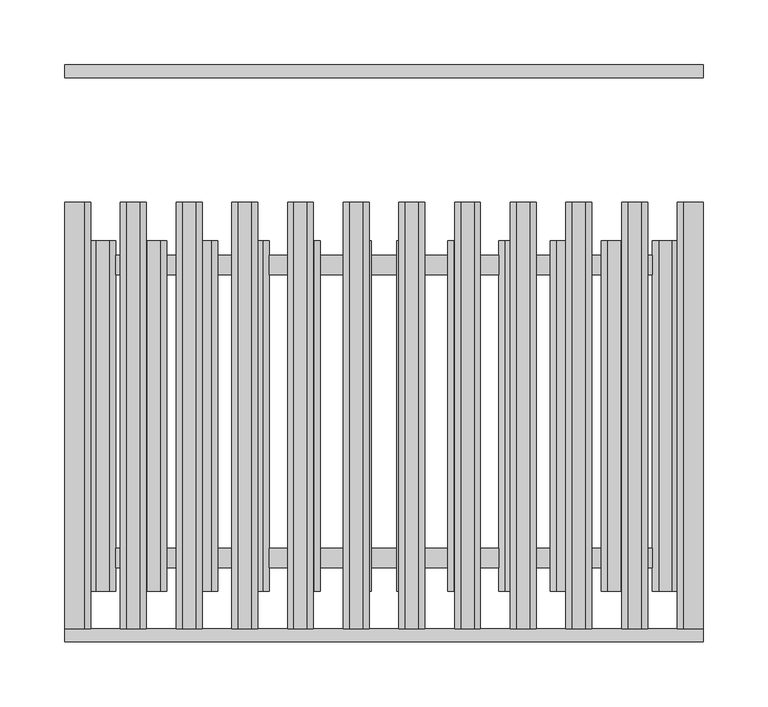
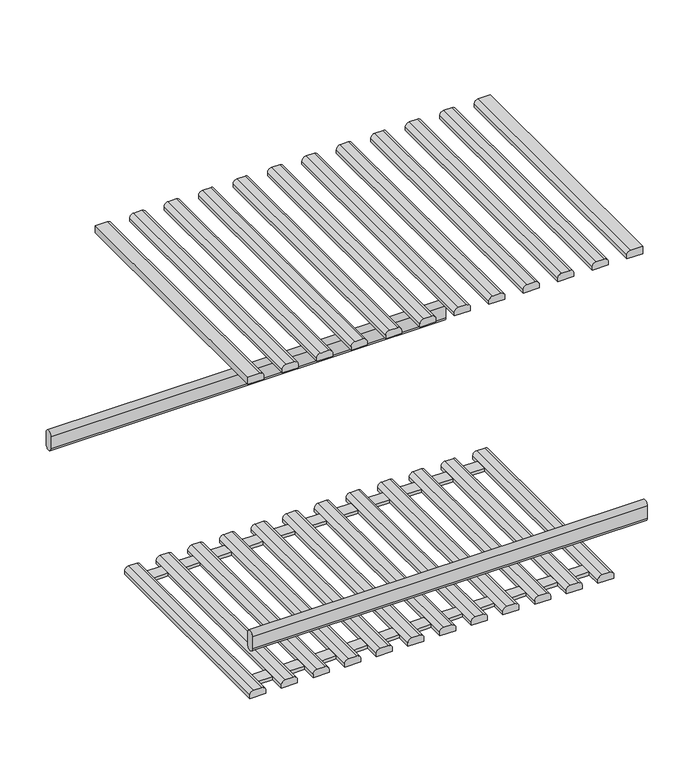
"""IFC4 building model written with IfcOpenShell, lengths in millimetres: proxy geometry, 10028660_ROK_KWT6322UG : 36632200_ROK_10028660_KWT6322UG."""

from ifc_helpers import new_model, si_unit, point, frame, frame_2d, origin, place, context, project, spatial, polyline, circle_curve, trimmed, segment, composite_curve, outline, extrude, source, transform, mapped, element, save
from ifc_brep_helpers import plane_surface, cylinder_surface, advanced_brep


def specialty_equipment_a93c78a1(model_context):
    return source(origin(), model_context, "Body", "SolidModel", [
        advanced_brep(
        [(-212.25, 73.0, 182.4), (-222.25, 73.0, 182.4), (-227.25, 73.0, 177.4), (-227.25, 73.0, 173.0), (-207.25, 73.0, 173.0), (-207.25, 73.0, 177.4), (-54.25, 73.0, 182.4), (-64.25, 73.0, 182.4), (-69.25, 73.0, 177.4), (-69.25, 73.0, 173.0), (-49.25, 73.0, 173.0), (-49.25, 73.0, 177.4), (-93.75, 73.0, 182.4), (-103.75, 73.0, 182.4), (-108.75, 73.0, 177.4), (-108.75, 73.0, 173.0), (-88.75, 73.0, 173.0), (-88.75, 73.0, 177.4), (-133.25, 73.0, 182.4), (-143.25, 73.0, 182.4), (-148.25, 73.0, 177.4), (-148.25, 73.0, 173.0), (-128.25, 73.0, 173.0), (-128.25, 73.0, 177.4), (-172.75, 73.0, 182.4), (-182.75, 73.0, 182.4), (-187.75, 73.0, 177.4), (-187.75, 73.0, 173.0), (-167.75, 73.0, 173.0), (-167.75, 73.0, 177.4), (64.25, 73.0, 182.4), (54.25, 73.0, 182.4), (49.25, 73.0, 177.4), (49.25, 73.0, 173.0), (69.25, 73.0, 173.0), (69.25, 73.0, 177.4), (103.75, 73.0, 182.4), (93.75, 73.0, 182.4), (88.75, 73.0, 177.4), (88.75, 73.0, 173.0), (108.75, 73.0, 173.0), (108.75, 73.0, 177.4), (143.25, 73.0, 182.4), (133.25, 73.0, 182.4), (128.25, 73.0, 177.4), (128.25, 73.0, 173.0), (148.25, 73.0, 173.0), (148.25, 73.0, 177.4), (182.75, 73.0, 182.4), (172.75, 73.0, 182.4), (167.75, 73.0, 177.4), (167.75, 73.0, 173.0), (187.75, 73.0, 173.0), (187.75, 73.0, 177.4), (-14.75, 73.0, 182.4), (-24.75, 73.0, 182.4), (-29.75, 73.0, 177.4), (-29.75, 73.0, 173.0), (-9.75, 73.0, 173.0), (-9.75, 73.0, 177.4), (24.75, 73.0, 182.4), (14.75, 73.0, 182.4), (9.75, 73.0, 177.4), (9.75, 73.0, 173.0), (29.75, 73.0, 173.0), (29.75, 73.0, 177.4), (212.25, 73.0, 182.4), (207.25, 73.0, 177.4), (207.25, 73.0, 173.0), (227.25, 73.0, 173.0), (227.25, 73.0, 177.4), (222.25, 73.0, 182.4), (-212.25, 343.5, 182.4), (-207.25, 343.5, 177.4), (-207.25, 343.5, 173.0), (-227.25, 343.5, 173.0), (-227.25, 343.5, 177.4), (-222.25, 343.5, 182.4), (-54.25, 343.5, 182.4), (-49.25, 343.5, 177.4), (-49.25, 343.5, 173.0), (-69.25, 343.5, 173.0), (-69.25, 343.5, 177.4), (-64.25, 343.5, 182.4), (-93.75, 343.5, 182.4), (-88.75, 343.5, 177.4), (-88.75, 343.5, 173.0), (-108.75, 343.5, 173.0), (-108.75, 343.5, 177.4), (-103.75, 343.5, 182.4), (-133.25, 343.5, 182.4), (-128.25, 343.5, 177.4), (-128.25, 343.5, 173.0), (-148.25, 343.5, 173.0), (-148.25, 343.5, 177.4), (-143.25, 343.5, 182.4), (-172.75, 343.5, 182.4), (-167.75, 343.5, 177.4), (-167.75, 343.5, 173.0), (-187.75, 343.5, 173.0), (-187.75, 343.5, 177.4), (-182.75, 343.5, 182.4), (64.25, 343.5, 182.4), (69.25, 343.5, 177.4), (69.25, 343.5, 173.0), (49.25, 343.5, 173.0), (49.25, 343.5, 177.4), (54.25, 343.5, 182.4), (103.75, 343.5, 182.4), (108.75, 343.5, 177.4), (108.75, 343.5, 173.0), (88.75, 343.5, 173.0), (88.75, 343.5, 177.4), (93.75, 343.5, 182.4), (143.25, 343.5, 182.4), (148.25, 343.5, 177.4), (148.25, 343.5, 173.0), (128.25, 343.5, 173.0), (128.25, 343.5, 177.4), (133.25, 343.5, 182.4), (182.75, 343.5, 182.4), (187.75, 343.5, 177.4), (187.75, 343.5, 173.0), (167.75, 343.5, 173.0), (167.75, 343.5, 177.4), (172.75, 343.5, 182.4), (-14.75, 343.5, 182.4), (-9.75, 343.5, 177.4), (-9.75, 343.5, 173.0), (-29.75, 343.5, 173.0), (-29.75, 343.5, 177.4), (-24.75, 343.5, 182.4), (24.75, 343.5, 182.4), (29.75, 343.5, 177.4), (29.75, 343.5, 173.0), (9.75, 343.5, 173.0), (9.75, 343.5, 177.4), (14.75, 343.5, 182.4), (212.25, 343.5, 182.4), (222.25, 343.5, 182.4), (227.25, 343.5, 177.4), (227.25, 343.5, 173.0), (207.25, 343.5, 173.0), (207.25, 343.5, 177.4), (207.25, 91.3, 173.0), (187.75, 91.3, 173.0), (167.75, 91.3, 173.0), (148.25, 91.3, 173.0), (128.25, 91.3, 173.0), (108.75, 91.3, 173.0), (88.75, 91.3, 173.0), (69.25, 91.3, 173.0), (49.25, 91.3, 173.0), (29.75, 91.3, 173.0), (9.75, 91.3, 173.0), (-9.75, 91.3, 173.0), (-29.75, 91.3, 173.0), (-49.25, 91.3, 173.0), (-69.25, 91.3, 173.0), (-88.75, 91.3, 173.0), (-108.75, 91.3, 173.0), (-128.25, 91.3, 173.0), (-148.25, 91.3, 173.0), (-167.75, 91.3, 173.0), (-187.75, 91.3, 173.0), (-207.25, 91.3, 173.0), (-207.25, 332.3, 173.0), (-187.75, 332.3, 173.0), (-167.75, 332.3, 173.0), (-148.25, 332.3, 173.0), (-128.25, 332.3, 173.0), (-108.75, 332.3, 173.0), (-88.75, 332.3, 173.0), (-69.25, 332.3, 173.0), (-49.25, 332.3, 173.0), (-29.75, 332.3, 173.0), (-9.75, 332.3, 173.0), (9.75, 332.3, 173.0), (29.75, 332.3, 173.0), (49.25, 332.3, 173.0), (69.25, 332.3, 173.0), (88.75, 332.3, 173.0), (108.75, 332.3, 173.0), (128.25, 332.3, 173.0), (148.25, 332.3, 173.0), (167.75, 332.3, 173.0), (187.75, 332.3, 173.0), (207.25, 332.3, 173.0), (-69.25, 317.3, 173.0), (-88.75, 317.3, 173.0), (-88.75, 106.3, 173.0), (-69.25, 106.3, 173.0), (-108.75, 317.3, 173.0), (-128.25, 317.3, 173.0), (-128.25, 106.3, 173.0), (-108.75, 106.3, 173.0), (-148.25, 317.3, 173.0), (-167.75, 317.3, 173.0), (-167.75, 106.3, 173.0), (-148.25, 106.3, 173.0), (167.75, 317.3, 173.0), (148.25, 317.3, 173.0), (148.25, 106.3, 173.0), (167.75, 106.3, 173.0), (9.75, 317.3, 173.0), (-9.75, 317.3, 173.0), (-9.75, 106.3, 173.0), (9.75, 106.3, 173.0), (49.25, 317.3, 173.0), (29.75, 317.3, 173.0), (29.75, 106.3, 173.0), (49.25, 106.3, 173.0), (-207.25, 106.3, 173.0), (-187.75, 106.3, 173.0), (-187.75, 317.3, 173.0), (-207.25, 317.3, 173.0), (69.25, 106.3, 173.0), (88.75, 106.3, 173.0), (88.75, 317.3, 173.0), (69.25, 317.3, 173.0), (108.75, 106.3, 173.0), (128.25, 106.3, 173.0), (128.25, 317.3, 173.0), (108.75, 317.3, 173.0), (-49.25, 106.3, 173.0), (-29.75, 106.3, 173.0), (-29.75, 317.3, 173.0), (-49.25, 317.3, 173.0), (187.75, 106.3, 173.0), (207.25, 106.3, 173.0), (207.25, 317.3, 173.0), (187.75, 317.3, 173.0), (-207.25, 91.3, 177.0), (-207.25, 106.3, 177.0), (-207.25, 317.3, 177.0), (-207.25, 332.3, 177.0), (-69.25, 332.3, 177.0), (-69.25, 317.3, 177.0), (-69.25, 106.3, 177.0), (-69.25, 91.3, 177.0), (-49.25, 91.3, 177.0), (-49.25, 106.3, 177.0), (-49.25, 317.3, 177.0), (-49.25, 332.3, 177.0), (-108.75, 332.3, 177.0), (-108.75, 317.3, 177.0), (-108.75, 106.3, 177.0), (-108.75, 91.3, 177.0), (-88.75, 91.3, 177.0), (-88.75, 106.3, 177.0), (-88.75, 317.3, 177.0), (-88.75, 332.3, 177.0), (-148.25, 332.3, 177.0), (-148.25, 317.3, 177.0), (-148.25, 106.3, 177.0), (-148.25, 91.3, 177.0), (-128.25, 91.3, 177.0), (-128.25, 106.3, 177.0), (-128.25, 317.3, 177.0), (-128.25, 332.3, 177.0), (-187.75, 332.3, 177.0), (-187.75, 317.3, 177.0), (-187.75, 106.3, 177.0), (-187.75, 91.3, 177.0), (-167.75, 91.3, 177.0), (-167.75, 106.3, 177.0), (-167.75, 317.3, 177.0), (-167.75, 332.3, 177.0), (49.25, 332.3, 177.0), (49.25, 317.3, 177.0), (49.25, 106.3, 177.0), (49.25, 91.3, 177.0), (69.25, 91.3, 177.0), (69.25, 106.3, 177.0), (69.25, 317.3, 177.0), (69.25, 332.3, 177.0), (88.75, 332.3, 177.0), (88.75, 317.3, 177.0), (88.75, 106.3, 177.0), (88.75, 91.3, 177.0), (108.75, 91.3, 177.0), (108.75, 106.3, 177.0), (108.75, 317.3, 177.0), (108.75, 332.3, 177.0), (128.25, 332.3, 177.0), (128.25, 317.3, 177.0), (128.25, 106.3, 177.0), (128.25, 91.3, 177.0), (148.25, 91.3, 177.0), (148.25, 106.3, 177.0), (148.25, 317.3, 177.0), (148.25, 332.3, 177.0), (167.75, 332.3, 177.0), (167.75, 317.3, 177.0), (167.75, 106.3, 177.0), (167.75, 91.3, 177.0), (187.75, 91.3, 177.0), (187.75, 106.3, 177.0), (187.75, 317.3, 177.0), (187.75, 332.3, 177.0), (-29.75, 332.3, 177.0), (-29.75, 317.3, 177.0), (-29.75, 106.3, 177.0), (-29.75, 91.3, 177.0), (-9.75, 91.3, 177.0), (-9.75, 106.3, 177.0), (-9.75, 317.3, 177.0), (-9.75, 332.3, 177.0), (9.75, 332.3, 177.0), (9.75, 317.3, 177.0), (9.75, 106.3, 177.0), (9.75, 91.3, 177.0), (29.75, 91.3, 177.0), (29.75, 106.3, 177.0), (29.75, 317.3, 177.0), (29.75, 332.3, 177.0), (207.25, 332.3, 177.0), (207.25, 317.3, 177.0), (207.25, 106.3, 177.0), (207.25, 91.3, 177.0)],
        [
            (0, 1),
            (1, 2, circle_curve(frame((-222.25, 73.0, 177.4), z_axis=(0.0, -1.0, 0.0), x_axis=(1.0, 0.0, 0.0)), 5.0)),
            (2, 3),
            (3, 4),
            (4, 5),
            (5, 0, circle_curve(frame((-212.25, 73.0, 177.4), z_axis=(0.0, -1.0, 0.0), x_axis=(1.0, 0.0, 0.0)), 5.0)),
            (6, 7),
            (7, 8, circle_curve(frame((-64.25, 73.0, 177.4), z_axis=(0.0, -1.0, 0.0), x_axis=(1.0, 0.0, 0.0)), 5.0)),
            (8, 9),
            (9, 10),
            (10, 11),
            (11, 6, circle_curve(frame((-54.25, 73.0, 177.4), z_axis=(0.0, -1.0, 0.0), x_axis=(1.0, 0.0, 0.0)), 5.0)),
            (12, 13),
            (13, 14, circle_curve(frame((-103.75, 73.0, 177.4), z_axis=(0.0, -1.0, 0.0), x_axis=(1.0, 0.0, 0.0)), 5.0)),
            (14, 15),
            (15, 16),
            (16, 17),
            (17, 12, circle_curve(frame((-93.75, 73.0, 177.4), z_axis=(0.0, -1.0, 0.0), x_axis=(1.0, 0.0, 0.0)), 5.0)),
            (18, 19),
            (19, 20, circle_curve(frame((-143.25, 73.0, 177.4), z_axis=(0.0, -1.0, 0.0), x_axis=(1.0, 0.0, 0.0)), 5.0)),
            (20, 21),
            (21, 22),
            (22, 23),
            (23, 18, circle_curve(frame((-133.25, 73.0, 177.4), z_axis=(0.0, -1.0, 0.0), x_axis=(1.0, 0.0, 0.0)), 5.0)),
            (24, 25),
            (25, 26, circle_curve(frame((-182.75, 73.0, 177.4), z_axis=(0.0, -1.0, 0.0), x_axis=(1.0, 0.0, 0.0)), 5.0)),
            (26, 27),
            (27, 28),
            (28, 29),
            (29, 24, circle_curve(frame((-172.75, 73.0, 177.4), z_axis=(0.0, -1.0, 0.0), x_axis=(1.0, 0.0, 0.0)), 5.0)),
            (30, 31),
            (31, 32, circle_curve(frame((54.25, 73.0, 177.4), z_axis=(0.0, -1.0, 0.0), x_axis=(1.0, 0.0, 0.0)), 5.0)),
            (32, 33),
            (33, 34),
            (34, 35),
            (35, 30, circle_curve(frame((64.25, 73.0, 177.4), z_axis=(0.0, -1.0, 0.0), x_axis=(1.0, 0.0, 0.0)), 5.0)),
            (36, 37),
            (37, 38, circle_curve(frame((93.75, 73.0, 177.4), z_axis=(0.0, -1.0, 0.0), x_axis=(1.0, 0.0, 0.0)), 5.0)),
            (38, 39),
            (39, 40),
            (40, 41),
            (41, 36, circle_curve(frame((103.75, 73.0, 177.4), z_axis=(0.0, -1.0, 0.0), x_axis=(1.0, 0.0, 0.0)), 5.0)),
            (42, 43),
            (43, 44, circle_curve(frame((133.25, 73.0, 177.4), z_axis=(0.0, -1.0, 0.0), x_axis=(1.0, 0.0, 0.0)), 5.0)),
            (44, 45),
            (45, 46),
            (46, 47),
            (47, 42, circle_curve(frame((143.25, 73.0, 177.4), z_axis=(0.0, -1.0, 0.0), x_axis=(1.0, 0.0, 0.0)), 5.0)),
            (48, 49),
            (49, 50, circle_curve(frame((172.75, 73.0, 177.4), z_axis=(0.0, -1.0, 0.0), x_axis=(1.0, 0.0, 0.0)), 5.0)),
            (50, 51),
            (51, 52),
            (52, 53),
            (53, 48, circle_curve(frame((182.75, 73.0, 177.4), z_axis=(0.0, -1.0, 0.0), x_axis=(1.0, 0.0, 0.0)), 5.0)),
            (54, 55),
            (55, 56, circle_curve(frame((-24.75, 73.0, 177.4), z_axis=(0.0, -1.0, 0.0), x_axis=(1.0, 0.0, 0.0)), 5.0)),
            (56, 57),
            (57, 58),
            (58, 59),
            (59, 54, circle_curve(frame((-14.75, 73.0, 177.4), z_axis=(0.0, -1.0, 0.0), x_axis=(1.0, 0.0, 0.0)), 5.0)),
            (60, 61),
            (61, 62, circle_curve(frame((14.75, 73.0, 177.4), z_axis=(0.0, -1.0, 0.0), x_axis=(1.0, 0.0, 0.0)), 5.0)),
            (62, 63),
            (63, 64),
            (64, 65),
            (65, 60, circle_curve(frame((24.75, 73.0, 177.4), z_axis=(0.0, -1.0, 0.0), x_axis=(1.0, 0.0, 0.0)), 5.0)),
            (66, 67, circle_curve(frame((212.25, 73.0, 177.4), z_axis=(0.0, -1.0, 0.0), x_axis=(1.0, 0.0, 0.0)), 5.0)),
            (67, 68),
            (68, 69),
            (69, 70),
            (70, 71, circle_curve(frame((222.25, 73.0, 177.4), z_axis=(0.0, -1.0, 0.0), x_axis=(1.0, 0.0, 0.0)), 5.0)),
            (71, 66),
            (72, 73, circle_curve(frame((-212.25, 343.5, 177.4), z_axis=(0.0, 1.0, 0.0), x_axis=(1.0, 0.0, 0.0)), 5.0)),
            (73, 74),
            (74, 75),
            (75, 76),
            (76, 77, circle_curve(frame((-222.25, 343.5, 177.4), z_axis=(0.0, 1.0, 0.0), x_axis=(1.0, 0.0, 0.0)), 5.0)),
            (77, 72),
            (78, 79, circle_curve(frame((-54.25, 343.5, 177.4), z_axis=(0.0, 1.0, 0.0), x_axis=(1.0, 0.0, 0.0)), 5.0)),
            (79, 80),
            (80, 81),
            (81, 82),
            (82, 83, circle_curve(frame((-64.25, 343.5, 177.4), z_axis=(0.0, 1.0, 0.0), x_axis=(1.0, 0.0, 0.0)), 5.0)),
            (83, 78),
            (84, 85, circle_curve(frame((-93.75, 343.5, 177.4), z_axis=(0.0, 1.0, 0.0), x_axis=(1.0, 0.0, 0.0)), 5.0)),
            (85, 86),
            (86, 87),
            (87, 88),
            (88, 89, circle_curve(frame((-103.75, 343.5, 177.4), z_axis=(0.0, 1.0, 0.0), x_axis=(1.0, 0.0, 0.0)), 5.0)),
            (89, 84),
            (90, 91, circle_curve(frame((-133.25, 343.5, 177.4), z_axis=(0.0, 1.0, 0.0), x_axis=(1.0, 0.0, 0.0)), 5.0)),
            (91, 92),
            (92, 93),
            (93, 94),
            (94, 95, circle_curve(frame((-143.25, 343.5, 177.4), z_axis=(0.0, 1.0, 0.0), x_axis=(1.0, 0.0, 0.0)), 5.0)),
            (95, 90),
            (96, 97, circle_curve(frame((-172.75, 343.5, 177.4), z_axis=(0.0, 1.0, 0.0), x_axis=(1.0, 0.0, 0.0)), 5.0)),
            (97, 98),
            (98, 99),
            (99, 100),
            (100, 101, circle_curve(frame((-182.75, 343.5, 177.4), z_axis=(0.0, 1.0, 0.0), x_axis=(1.0, 0.0, 0.0)), 5.0)),
            (101, 96),
            (102, 103, circle_curve(frame((64.25, 343.5, 177.4), z_axis=(0.0, 1.0, 0.0), x_axis=(1.0, 0.0, 0.0)), 5.0)),
            (103, 104),
            (104, 105),
            (105, 106),
            (106, 107, circle_curve(frame((54.25, 343.5, 177.4), z_axis=(0.0, 1.0, 0.0), x_axis=(1.0, 0.0, 0.0)), 5.0)),
            (107, 102),
            (108, 109, circle_curve(frame((103.75, 343.5, 177.4), z_axis=(0.0, 1.0, 0.0), x_axis=(1.0, 0.0, 0.0)), 5.0)),
            (109, 110),
            (110, 111),
            (111, 112),
            (112, 113, circle_curve(frame((93.75, 343.5, 177.4), z_axis=(0.0, 1.0, 0.0), x_axis=(1.0, 0.0, 0.0)), 5.0)),
            (113, 108),
            (114, 115, circle_curve(frame((143.25, 343.5, 177.4), z_axis=(0.0, 1.0, 0.0), x_axis=(1.0, 0.0, 0.0)), 5.0)),
            (115, 116),
            (116, 117),
            (117, 118),
            (118, 119, circle_curve(frame((133.25, 343.5, 177.4), z_axis=(0.0, 1.0, 0.0), x_axis=(1.0, 0.0, 0.0)), 5.0)),
            (119, 114),
            (120, 121, circle_curve(frame((182.75, 343.5, 177.4), z_axis=(0.0, 1.0, 0.0), x_axis=(1.0, 0.0, 0.0)), 5.0)),
            (121, 122),
            (122, 123),
            (123, 124),
            (124, 125, circle_curve(frame((172.75, 343.5, 177.4), z_axis=(0.0, 1.0, 0.0), x_axis=(1.0, 0.0, 0.0)), 5.0)),
            (125, 120),
            (126, 127, circle_curve(frame((-14.75, 343.5, 177.4), z_axis=(0.0, 1.0, 0.0), x_axis=(1.0, 0.0, 0.0)), 5.0)),
            (127, 128),
            (128, 129),
            (129, 130),
            (130, 131, circle_curve(frame((-24.75, 343.5, 177.4), z_axis=(0.0, 1.0, 0.0), x_axis=(1.0, 0.0, 0.0)), 5.0)),
            (131, 126),
            (132, 133, circle_curve(frame((24.75, 343.5, 177.4), z_axis=(0.0, 1.0, 0.0), x_axis=(1.0, 0.0, 0.0)), 5.0)),
            (133, 134),
            (134, 135),
            (135, 136),
            (136, 137, circle_curve(frame((14.75, 343.5, 177.4), z_axis=(0.0, 1.0, 0.0), x_axis=(1.0, 0.0, 0.0)), 5.0)),
            (137, 132),
            (138, 139),
            (139, 140, circle_curve(frame((222.25, 343.5, 177.4), z_axis=(0.0, 1.0, 0.0), x_axis=(1.0, 0.0, 0.0)), 5.0)),
            (140, 141),
            (141, 142),
            (142, 143),
            (143, 138, circle_curve(frame((212.25, 343.5, 177.4), z_axis=(0.0, 1.0, 0.0), x_axis=(1.0, 0.0, 0.0)), 5.0)),
            (0, 72),
            (77, 1),
            (75, 3),
            (2, 76),
            (144, 145),
            (145, 52),
            (51, 146),
            (146, 147),
            (147, 46),
            (45, 148),
            (148, 149),
            (149, 40),
            (39, 150),
            (150, 151),
            (151, 34),
            (33, 152),
            (152, 153),
            (153, 64),
            (63, 154),
            (154, 155),
            (155, 58),
            (57, 156),
            (156, 157),
            (157, 10),
            (9, 158),
            (158, 159),
            (159, 16),
            (15, 160),
            (160, 161),
            (161, 22),
            (21, 162),
            (162, 163),
            (163, 28),
            (27, 164),
            (164, 165),
            (165, 4),
            (74, 166),
            (166, 167),
            (167, 99),
            (98, 168),
            (168, 169),
            (169, 93),
            (92, 170),
            (170, 171),
            (171, 87),
            (86, 172),
            (172, 173),
            (173, 81),
            (80, 174),
            (174, 175),
            (175, 129),
            (128, 176),
            (176, 177),
            (177, 135),
            (134, 178),
            (178, 179),
            (179, 105),
            (104, 180),
            (180, 181),
            (181, 111),
            (110, 182),
            (182, 183),
            (183, 117),
            (116, 184),
            (184, 185),
            (185, 123),
            (122, 186),
            (186, 187),
            (187, 142),
            (141, 69),
            (68, 144),
            (188, 189),
            (189, 190),
            (190, 191),
            (191, 188),
            (192, 193),
            (193, 194),
            (194, 195),
            (195, 192),
            (196, 197),
            (197, 198),
            (198, 199),
            (199, 196),
            (200, 201),
            (201, 202),
            (202, 203),
            (203, 200),
            (204, 205),
            (205, 206),
            (206, 207),
            (207, 204),
            (208, 209),
            (209, 210),
            (210, 211),
            (211, 208),
            (212, 213),
            (213, 214),
            (214, 215),
            (215, 212),
            (216, 217),
            (217, 218),
            (218, 219),
            (219, 216),
            (220, 221),
            (221, 222),
            (222, 223),
            (223, 220),
            (224, 225),
            (225, 226),
            (226, 227),
            (227, 224),
            (228, 229),
            (229, 230),
            (230, 231),
            (231, 228),
            (165, 232),
            (232, 233),
            (233, 212),
            (215, 234),
            (234, 235),
            (235, 166),
            (73, 5),
            (6, 78),
            (83, 7),
            (82, 8),
            (173, 236),
            (236, 237),
            (237, 188),
            (191, 238),
            (238, 239),
            (239, 158),
            (157, 240),
            (240, 241),
            (241, 224),
            (227, 242),
            (242, 243),
            (243, 174),
            (79, 11),
            (12, 84),
            (89, 13),
            (88, 14),
            (171, 244),
            (244, 245),
            (245, 192),
            (195, 246),
            (246, 247),
            (247, 160),
            (159, 248),
            (248, 249),
            (249, 190),
            (189, 250),
            (250, 251),
            (251, 172),
            (85, 17),
            (18, 90),
            (95, 19),
            (94, 20),
            (169, 252),
            (252, 253),
            (253, 196),
            (199, 254),
            (254, 255),
            (255, 162),
            (161, 256),
            (256, 257),
            (257, 194),
            (193, 258),
            (258, 259),
            (259, 170),
            (91, 23),
            (24, 96),
            (101, 25),
            (100, 26),
            (167, 260),
            (260, 261),
            (261, 214),
            (213, 262),
            (262, 263),
            (263, 164),
            (163, 264),
            (264, 265),
            (265, 198),
            (197, 266),
            (266, 267),
            (267, 168),
            (97, 29),
            (30, 102),
            (107, 31),
            (106, 32),
            (179, 268),
            (268, 269),
            (269, 208),
            (211, 270),
            (270, 271),
            (271, 152),
            (151, 272),
            (272, 273),
            (273, 216),
            (219, 274),
            (274, 275),
            (275, 180),
            (103, 35),
            (36, 108),
            (113, 37),
            (112, 38),
            (181, 276),
            (276, 277),
            (277, 218),
            (217, 278),
            (278, 279),
            (279, 150),
            (149, 280),
            (280, 281),
            (281, 220),
            (223, 282),
            (282, 283),
            (283, 182),
            (109, 41),
            (42, 114),
            (119, 43),
            (118, 44),
            (183, 284),
            (284, 285),
            (285, 222),
            (221, 286),
            (286, 287),
            (287, 148),
            (147, 288),
            (288, 289),
            (289, 202),
            (201, 290),
            (290, 291),
            (291, 184),
            (115, 47),
            (48, 120),
            (125, 49),
            (124, 50),
            (185, 292),
            (292, 293),
            (293, 200),
            (203, 294),
            (294, 295),
            (295, 146),
            (145, 296),
            (296, 297),
            (297, 228),
            (231, 298),
            (298, 299),
            (299, 186),
            (121, 53),
            (54, 126),
            (131, 55),
            (130, 56),
            (175, 300),
            (300, 301),
            (301, 226),
            (225, 302),
            (302, 303),
            (303, 156),
            (155, 304),
            (304, 305),
            (305, 206),
            (205, 306),
            (306, 307),
            (307, 176),
            (127, 59),
            (60, 132),
            (137, 61),
            (136, 62),
            (177, 308),
            (308, 309),
            (309, 204),
            (207, 310),
            (310, 311),
            (311, 154),
            (153, 312),
            (312, 313),
            (313, 210),
            (209, 314),
            (314, 315),
            (315, 178),
            (133, 65),
            (66, 138),
            (143, 67),
            (187, 316),
            (316, 317),
            (317, 230),
            (229, 318),
            (318, 319),
            (319, 144),
            (140, 70),
            (71, 139),
            (319, 296),
            (295, 288),
            (287, 280),
            (279, 272),
            (271, 312),
            (311, 304),
            (303, 240),
            (239, 248),
            (247, 256),
            (255, 264),
            (263, 232),
            (249, 238),
            (257, 246),
            (233, 262),
            (265, 254),
            (273, 278),
            (281, 286),
            (289, 294),
            (241, 302),
            (305, 310),
            (313, 270),
            (297, 318),
            (236, 251),
            (250, 237),
            (244, 259),
            (258, 245),
            (260, 235),
            (234, 261),
            (252, 267),
            (266, 253),
            (276, 275),
            (274, 277),
            (284, 283),
            (282, 285),
            (292, 291),
            (290, 293),
            (300, 243),
            (242, 301),
            (308, 307),
            (306, 309),
            (268, 315),
            (314, 269),
            (316, 299),
            (298, 317),
        ],
        [
            plane_surface(frame((-222.25, 73.0, 182.4), z_axis=(0.0, -1.0, 0.0), x_axis=(-1.0, 0.0, 0.0))),
            plane_surface(frame((-222.25, 343.5, 182.4), z_axis=(0.0, 1.0, 0.0), x_axis=(1.0, 0.0, 0.0))),
            plane_surface(frame((-212.25, 73.0, 182.4), z_axis=(0.0, 0.0, 1.0), x_axis=(0.0, 1.0, 0.0))),
            plane_surface(frame((-227.25, 73.0, 177.4), z_axis=(-1.0, 0.0, 0.0), x_axis=(0.0, 1.0, 0.0))),
            plane_surface(frame((-227.25, 73.0, 173.0), z_axis=(0.0, 0.0, -1.0), x_axis=(0.0, 1.0, 0.0))),
            plane_surface(frame((-207.25, 73.0, 173.0), z_axis=(1.0, 0.0, 0.0), x_axis=(0.0, 1.0, 0.0))),
            cylinder_surface(frame((-212.25, 343.5, 177.4), z_axis=(0.0, -1.0, 0.0), x_axis=(1.0, 0.0, 0.0)), 5.0),
            plane_surface(frame((-54.25, 73.0, 182.4), z_axis=(0.0, 0.0, 1.0), x_axis=(0.0, 1.0, 0.0))),
            cylinder_surface(frame((-64.25, 0.0, 177.4), z_axis=(0.0, -1.0, 0.0), x_axis=(1.0, 0.0, 0.0)), 5.0),
            plane_surface(frame((-69.25, 73.0, 177.4), z_axis=(-1.0, 0.0, 0.0), x_axis=(0.0, 1.0, 0.0))),
            plane_surface(frame((-49.25, 73.0, 173.0), z_axis=(1.0, 0.0, 0.0), x_axis=(0.0, 1.0, 0.0))),
            cylinder_surface(frame((-54.25, 0.0, 177.4), z_axis=(0.0, -1.0, 0.0), x_axis=(1.0, 0.0, 0.0)), 5.0),
            plane_surface(frame((-93.75, 73.0, 182.4), z_axis=(0.0, 0.0, 1.0), x_axis=(0.0, 1.0, 0.0))),
            cylinder_surface(frame((-103.75, 0.0, 177.4), z_axis=(0.0, -1.0, 0.0), x_axis=(1.0, 0.0, 0.0)), 5.0),
            plane_surface(frame((-108.75, 73.0, 177.4), z_axis=(-1.0, 0.0, 0.0), x_axis=(0.0, 1.0, 0.0))),
            plane_surface(frame((-88.75, 73.0, 173.0), z_axis=(1.0, 0.0, 0.0), x_axis=(0.0, 1.0, 0.0))),
            cylinder_surface(frame((-93.75, 0.0, 177.4), z_axis=(0.0, -1.0, 0.0), x_axis=(1.0, 0.0, 0.0)), 5.0),
            plane_surface(frame((-133.25, 73.0, 182.4), z_axis=(0.0, 0.0, 1.0), x_axis=(0.0, 1.0, 0.0))),
            cylinder_surface(frame((-143.25, 0.0, 177.4), z_axis=(0.0, -1.0, 0.0), x_axis=(1.0, 0.0, 0.0)), 5.0),
            plane_surface(frame((-148.25, 73.0, 177.4), z_axis=(-1.0, 0.0, 0.0), x_axis=(0.0, 1.0, 0.0))),
            plane_surface(frame((-128.25, 73.0, 173.0), z_axis=(1.0, 0.0, 0.0), x_axis=(0.0, 1.0, 0.0))),
            cylinder_surface(frame((-133.25, 0.0, 177.4), z_axis=(0.0, -1.0, 0.0), x_axis=(1.0, 0.0, 0.0)), 5.0),
            plane_surface(frame((-172.75, 73.0, 182.4), z_axis=(0.0, 0.0, 1.0), x_axis=(0.0, 1.0, 0.0))),
            cylinder_surface(frame((-182.75, 0.0, 177.4), z_axis=(0.0, -1.0, 0.0), x_axis=(1.0, 0.0, 0.0)), 5.0),
            plane_surface(frame((-187.75, 73.0, 177.4), z_axis=(-1.0, 0.0, 0.0), x_axis=(0.0, 1.0, 0.0))),
            plane_surface(frame((-167.75, 73.0, 173.0), z_axis=(1.0, 0.0, 0.0), x_axis=(0.0, 1.0, 0.0))),
            cylinder_surface(frame((-172.75, 0.0, 177.4), z_axis=(0.0, -1.0, 0.0), x_axis=(1.0, 0.0, 0.0)), 5.0),
            plane_surface(frame((64.25, 73.0, 182.4), z_axis=(0.0, 0.0, 1.0), x_axis=(0.0, 1.0, 0.0))),
            cylinder_surface(frame((54.25, 0.0, 177.4), z_axis=(0.0, -1.0, 0.0), x_axis=(1.0, 0.0, 0.0)), 5.0),
            plane_surface(frame((49.25, 73.0, 177.4), z_axis=(-1.0, 0.0, 0.0), x_axis=(0.0, 1.0, 0.0))),
            plane_surface(frame((69.25, 73.0, 173.0), z_axis=(1.0, 0.0, 0.0), x_axis=(0.0, 1.0, 0.0))),
            cylinder_surface(frame((64.25, 0.0, 177.4), z_axis=(0.0, -1.0, 0.0), x_axis=(1.0, 0.0, 0.0)), 5.0),
            plane_surface(frame((103.75, 73.0, 182.4), z_axis=(0.0, 0.0, 1.0), x_axis=(0.0, 1.0, 0.0))),
            cylinder_surface(frame((93.75, 0.0, 177.4), z_axis=(0.0, -1.0, 0.0), x_axis=(1.0, 0.0, 0.0)), 5.0),
            plane_surface(frame((88.75, 73.0, 177.4), z_axis=(-1.0, 0.0, 0.0), x_axis=(0.0, 1.0, 0.0))),
            plane_surface(frame((108.75, 73.0, 173.0), z_axis=(1.0, 0.0, 0.0), x_axis=(0.0, 1.0, 0.0))),
            cylinder_surface(frame((103.75, 0.0, 177.4), z_axis=(0.0, -1.0, 0.0), x_axis=(1.0, 0.0, 0.0)), 5.0),
            plane_surface(frame((143.25, 73.0, 182.4), z_axis=(0.0, 0.0, 1.0), x_axis=(0.0, 1.0, 0.0))),
            cylinder_surface(frame((133.25, 0.0, 177.4), z_axis=(0.0, -1.0, 0.0), x_axis=(1.0, 0.0, 0.0)), 5.0),
            plane_surface(frame((128.25, 73.0, 177.4), z_axis=(-1.0, 0.0, 0.0), x_axis=(0.0, 1.0, 0.0))),
            plane_surface(frame((148.25, 73.0, 173.0), z_axis=(1.0, 0.0, 0.0), x_axis=(0.0, 1.0, 0.0))),
            cylinder_surface(frame((143.25, 0.0, 177.4), z_axis=(0.0, -1.0, 0.0), x_axis=(1.0, 0.0, 0.0)), 5.0),
            plane_surface(frame((182.75, 73.0, 182.4), z_axis=(0.0, 0.0, 1.0), x_axis=(0.0, 1.0, 0.0))),
            cylinder_surface(frame((172.75, 0.0, 177.4), z_axis=(0.0, -1.0, 0.0), x_axis=(1.0, 0.0, 0.0)), 5.0),
            plane_surface(frame((167.75, 73.0, 177.4), z_axis=(-1.0, 0.0, 0.0), x_axis=(0.0, 1.0, 0.0))),
            plane_surface(frame((187.75, 73.0, 173.0), z_axis=(1.0, 0.0, 0.0), x_axis=(0.0, 1.0, 0.0))),
            cylinder_surface(frame((182.75, 0.0, 177.4), z_axis=(0.0, -1.0, 0.0), x_axis=(1.0, 0.0, 0.0)), 5.0),
            plane_surface(frame((-14.75, 73.0, 182.4), z_axis=(0.0, 0.0, 1.0), x_axis=(0.0, 1.0, 0.0))),
            cylinder_surface(frame((-24.75, 0.0, 177.4), z_axis=(0.0, -1.0, 0.0), x_axis=(1.0, 0.0, 0.0)), 5.0),
            plane_surface(frame((-29.75, 73.0, 177.4), z_axis=(-1.0, 0.0, 0.0), x_axis=(0.0, 1.0, 0.0))),
            plane_surface(frame((-9.75, 73.0, 173.0), z_axis=(1.0, 0.0, 0.0), x_axis=(0.0, 1.0, 0.0))),
            cylinder_surface(frame((-14.75, 0.0, 177.4), z_axis=(0.0, -1.0, 0.0), x_axis=(1.0, 0.0, 0.0)), 5.0),
            plane_surface(frame((24.75, 73.0, 182.4), z_axis=(0.0, 0.0, 1.0), x_axis=(0.0, 1.0, 0.0))),
            cylinder_surface(frame((14.75, 0.0, 177.4), z_axis=(0.0, -1.0, 0.0), x_axis=(1.0, 0.0, 0.0)), 5.0),
            plane_surface(frame((9.75, 73.0, 177.4), z_axis=(-1.0, 0.0, 0.0), x_axis=(0.0, 1.0, 0.0))),
            plane_surface(frame((29.75, 73.0, 173.0), z_axis=(1.0, 0.0, 0.0), x_axis=(0.0, 1.0, 0.0))),
            cylinder_surface(frame((24.75, 0.0, 177.4), z_axis=(0.0, -1.0, 0.0), x_axis=(1.0, 0.0, 0.0)), 5.0),
            cylinder_surface(frame((212.25, 0.0, 177.4), z_axis=(0.0, -1.0, 0.0), x_axis=(1.0, 0.0, 0.0)), 5.0),
            plane_surface(frame((207.25, 73.0, 177.4), z_axis=(-1.0, 0.0, 0.0), x_axis=(0.0, 1.0, 0.0))),
            plane_surface(frame((227.25, 73.0, 173.0), z_axis=(1.0, 0.0, 1.0228787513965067e-12), x_axis=(0.0, 1.0, 0.0))),
            plane_surface(frame((222.25, 73.0, 182.4), z_axis=(0.0, 0.0, 1.0), x_axis=(0.0, 1.0, 0.0))),
            cylinder_surface(frame((-222.25, 343.5, 177.4), z_axis=(0.0, -1.0, 0.0), x_axis=(1.0, 0.0, 0.0)), 5.0),
            cylinder_surface(frame((222.25, 0.0, 177.4), z_axis=(0.0, -1.0, 0.0), x_axis=(1.0, 0.0, 0.0)), 5.0),
            plane_surface(frame((227.25, 91.3, 177.0), z_axis=(0.0, -1.0, 0.0), x_axis=(-1.0, 0.0, 0.0))),
            plane_surface(frame((227.25, 106.3, 173.0), z_axis=(0.0, 1.0, 0.0), x_axis=(-1.0, 0.0, 0.0))),
            plane_surface(frame((227.25, 106.3, 177.0), z_axis=(0.0, 0.0, 1.0), x_axis=(-1.0, 0.0, 0.0))),
            plane_surface(frame((227.25, 332.3, 177.0), z_axis=(0.0, 0.0, 1.0), x_axis=(-1.0, 0.0, 0.0))),
            plane_surface(frame((227.25, 317.3, 177.0), z_axis=(0.0, -1.0, 0.0), x_axis=(-1.0, 0.0, 0.0))),
            plane_surface(frame((227.25, 332.3, 173.0), z_axis=(0.0, 1.0, 0.0), x_axis=(-1.0, 0.0, 0.0))),
        ],
        [
            (0, [[1, 2, 3, 4, 5, 6]]),
            (0, [[7, 8, 9, 10, 11, 12]]),
            (0, [[13, 14, 15, 16, 17, 18]]),
            (0, [[19, 20, 21, 22, 23, 24]]),
            (0, [[25, 26, 27, 28, 29, 30]]),
            (0, [[31, 32, 33, 34, 35, 36]]),
            (0, [[37, 38, 39, 40, 41, 42]]),
            (0, [[43, 44, 45, 46, 47, 48]]),
            (0, [[49, 50, 51, 52, 53, 54]]),
            (0, [[55, 56, 57, 58, 59, 60]]),
            (0, [[61, 62, 63, 64, 65, 66]]),
            (0, [[67, 68, 69, 70, 71, 72]]),
            (1, [[73, 74, 75, 76, 77, 78]]),
            (1, [[79, 80, 81, 82, 83, 84]]),
            (1, [[85, 86, 87, 88, 89, 90]]),
            (1, [[91, 92, 93, 94, 95, 96]]),
            (1, [[97, 98, 99, 100, 101, 102]]),
            (1, [[103, 104, 105, 106, 107, 108]]),
            (1, [[109, 110, 111, 112, 113, 114]]),
            (1, [[115, 116, 117, 118, 119, 120]]),
            (1, [[121, 122, 123, 124, 125, 126]]),
            (1, [[127, 128, 129, 130, 131, 132]]),
            (1, [[133, 134, 135, 136, 137, 138]]),
            (1, [[139, 140, 141, 142, 143, 144]]),
            (2, [[-1, 145, -78, 146]]),
            (3, [[147, -3, 148, -76]]),
            (4, [[149, 150, -52, 151, 152, 153, -46, 154, 155, 156, -40, 157, 158, 159, -34, 160, 161, 162, -64, 163, 164, 165, -58, 166, 167, 168, -10, 169, 170, 171, -16, 172, 173, 174, -22, 175, 176, 177, -28, 178, 179, 180, -4, -147, -75, 181, 182, 183, -99, 184, 185, 186, -93, 187, 188, 189, -87, 190, 191, 192, -81, 193, 194, 195, -129, 196, 197, 198, -135, 199, 200, 201, -105, 202, 203, 204, -111, 205, 206, 207, -117, 208, 209, 210, -123, 211, 212, 213, -142, 214, -69, 215], [216, 217, 218, 219], [220, 221, 222, 223], [224, 225, 226, 227], [228, 229, 230, 231], [232, 233, 234, 235], [236, 237, 238, 239], [240, 241, 242, 243], [244, 245, 246, 247], [248, 249, 250, 251], [252, 253, 254, 255], [256, 257, 258, 259]]),
            (5, [[-5, -180, 260, 261, 262, -243, 263, 264, 265, -181, -74, 266]]),
            (6, [[-6, -266, -73, -145]]),
            (7, [[-7, 267, -84, 268]]),
            (8, [[-8, -268, -83, 269]]),
            (9, [[-9, -269, -82, -192, 270, 271, 272, -219, 273, 274, 275, -169]]),
            (10, [[-11, -168, 276, 277, 278, -255, 279, 280, 281, -193, -80, 282]]),
            (11, [[-12, -282, -79, -267]]),
            (12, [[-13, 283, -90, 284]]),
            (13, [[-14, -284, -89, 285]]),
            (14, [[-15, -285, -88, -189, 286, 287, 288, -223, 289, 290, 291, -172]]),
            (15, [[-17, -171, 292, 293, 294, -217, 295, 296, 297, -190, -86, 298]]),
            (16, [[-18, -298, -85, -283]]),
            (17, [[-19, 299, -96, 300]]),
            (18, [[-20, -300, -95, 301]]),
            (19, [[-21, -301, -94, -186, 302, 303, 304, -227, 305, 306, 307, -175]]),
            (20, [[-23, -174, 308, 309, 310, -221, 311, 312, 313, -187, -92, 314]]),
            (21, [[-24, -314, -91, -299]]),
            (22, [[-25, 315, -102, 316]]),
            (23, [[-26, -316, -101, 317]]),
            (24, [[-27, -317, -100, -183, 318, 319, 320, -241, 321, 322, 323, -178]]),
            (25, [[-29, -177, 324, 325, 326, -225, 327, 328, 329, -184, -98, 330]]),
            (26, [[-30, -330, -97, -315]]),
            (27, [[-31, 331, -108, 332]]),
            (28, [[-32, -332, -107, 333]]),
            (29, [[-33, -333, -106, -201, 334, 335, 336, -239, 337, 338, 339, -160]]),
            (30, [[-35, -159, 340, 341, 342, -247, 343, 344, 345, -202, -104, 346]]),
            (31, [[-36, -346, -103, -331]]),
            (32, [[-37, 347, -114, 348]]),
            (33, [[-38, -348, -113, 349]]),
            (34, [[-39, -349, -112, -204, 350, 351, 352, -245, 353, 354, 355, -157]]),
            (35, [[-41, -156, 356, 357, 358, -251, 359, 360, 361, -205, -110, 362]]),
            (36, [[-42, -362, -109, -347]]),
            (37, [[-43, 363, -120, 364]]),
            (38, [[-44, -364, -119, 365]]),
            (39, [[-45, -365, -118, -207, 366, 367, 368, -249, 369, 370, 371, -154]]),
            (40, [[-47, -153, 372, 373, 374, -229, 375, 376, 377, -208, -116, 378]]),
            (41, [[-48, -378, -115, -363]]),
            (42, [[-49, 379, -126, 380]]),
            (43, [[-50, -380, -125, 381]]),
            (44, [[-51, -381, -124, -210, 382, 383, 384, -231, 385, 386, 387, -151]]),
            (45, [[-53, -150, 388, 389, 390, -259, 391, 392, 393, -211, -122, 394]]),
            (46, [[-54, -394, -121, -379]]),
            (47, [[-55, 395, -132, 396]]),
            (48, [[-56, -396, -131, 397]]),
            (49, [[-57, -397, -130, -195, 398, 399, 400, -253, 401, 402, 403, -166]]),
            (50, [[-59, -165, 404, 405, 406, -233, 407, 408, 409, -196, -128, 410]]),
            (51, [[-60, -410, -127, -395]]),
            (52, [[-61, 411, -138, 412]]),
            (53, [[-62, -412, -137, 413]]),
            (54, [[-63, -413, -136, -198, 414, 415, 416, -235, 417, 418, 419, -163]]),
            (55, [[-65, -162, 420, 421, 422, -237, 423, 424, 425, -199, -134, 426]]),
            (56, [[-66, -426, -133, -411]]),
            (57, [[-67, 427, -144, 428]]),
            (58, [[-68, -428, -143, -213, 429, 430, 431, -257, 432, 433, 434, -215]]),
            (59, [[-70, -214, -141, 435]]),
            (60, [[-72, 436, -139, -427]]),
            (61, [[-2, -146, -77, -148]]),
            (62, [[-71, -435, -140, -436]]),
            (63, [[-149, -434, 437, -388]]),
            (63, [[-152, -387, 438, -372]]),
            (63, [[-155, -371, 439, -356]]),
            (63, [[-158, -355, 440, -340]]),
            (63, [[-161, -339, 441, -420]]),
            (63, [[-164, -419, 442, -404]]),
            (63, [[-167, -403, 443, -276]]),
            (63, [[-170, -275, 444, -292]]),
            (63, [[-173, -291, 445, -308]]),
            (63, [[-176, -307, 446, -324]]),
            (63, [[-179, -323, 447, -260]]),
            (64, [[-218, -294, 448, -273]]),
            (64, [[-222, -310, 449, -289]]),
            (64, [[-240, -262, 450, -321]]),
            (64, [[-226, -326, 451, -305]]),
            (64, [[-244, -342, 452, -353]]),
            (64, [[-248, -358, 453, -369]]),
            (64, [[-230, -374, 454, -385]]),
            (64, [[-252, -278, 455, -401]]),
            (64, [[-234, -406, 456, -417]]),
            (64, [[-238, -422, 457, -337]]),
            (64, [[-256, -390, 458, -432]]),
            (65, [[-437, -433, -458, -389]]),
            (65, [[-438, -386, -454, -373]]),
            (65, [[-439, -370, -453, -357]]),
            (65, [[-440, -354, -452, -341]]),
            (65, [[-441, -338, -457, -421]]),
            (65, [[-442, -418, -456, -405]]),
            (65, [[-443, -402, -455, -277]]),
            (65, [[-444, -274, -448, -293]]),
            (65, [[-445, -290, -449, -309]]),
            (65, [[-446, -306, -451, -325]]),
            (65, [[-447, -322, -450, -261]]),
            (66, [[459, -296, 460, -271]]),
            (66, [[461, -312, 462, -287]]),
            (66, [[463, -264, 464, -319]]),
            (66, [[465, -328, 466, -303]]),
            (66, [[467, -344, 468, -351]]),
            (66, [[469, -360, 470, -367]]),
            (66, [[471, -376, 472, -383]]),
            (66, [[473, -280, 474, -399]]),
            (66, [[475, -408, 476, -415]]),
            (66, [[477, -424, 478, -335]]),
            (66, [[479, -392, 480, -430]]),
            (67, [[-216, -272, -460, -295]]),
            (67, [[-220, -288, -462, -311]]),
            (67, [[-224, -304, -466, -327]]),
            (67, [[-228, -384, -472, -375]]),
            (67, [[-232, -416, -476, -407]]),
            (67, [[-236, -336, -478, -423]]),
            (67, [[-242, -320, -464, -263]]),
            (67, [[-246, -352, -468, -343]]),
            (67, [[-250, -368, -470, -359]]),
            (67, [[-254, -400, -474, -279]]),
            (67, [[-258, -431, -480, -391]]),
            (68, [[-182, -265, -463, -318]]),
            (68, [[-185, -329, -465, -302]]),
            (68, [[-188, -313, -461, -286]]),
            (68, [[-191, -297, -459, -270]]),
            (68, [[-194, -281, -473, -398]]),
            (68, [[-197, -409, -475, -414]]),
            (68, [[-200, -425, -477, -334]]),
            (68, [[-203, -345, -467, -350]]),
            (68, [[-206, -361, -469, -366]]),
            (68, [[-209, -377, -471, -382]]),
            (68, [[-212, -393, -479, -429]]),
        ],
    ),
        extrude(outline(composite_curve([segment(trimmed(circle_curve(frame_2d((39.0, 269.2)), 5.0), [point((44.0, 269.2))], [point((34.0, 269.2))], False, "CARTESIAN"), True, "CONTINUOUS"), segment(polyline([(34.0, 269.2), (34.0, 285.2)]), True, "CONTINUOUS"), segment(trimmed(circle_curve(frame_2d((39.0, 285.2)), 5.0), [point((34.0, 285.2))], [point((44.0, 285.2))], False, "CARTESIAN"), True, "CONTINUOUS"), segment(polyline([(44.0, 285.2), (44.0, 269.2)]), True, "CONTINUOUS")], self_intersect=False)), frame((-246.5, 0.0, 0.0), z_axis=(1.0, 0.0, 0.0), x_axis=(0.0, 1.0, 0.0)), (0.0, 0.0, 1.0), 493.0),
        extrude(outline(composite_curve([segment(trimmed(circle_curve(frame_2d((474.5, 269.2)), 5.0), [point((479.5, 269.2))], [point((469.5, 269.2))], False, "CARTESIAN"), True, "CONTINUOUS"), segment(polyline([(469.5, 269.2), (469.5, 285.2)]), True, "CONTINUOUS"), segment(trimmed(circle_curve(frame_2d((474.5, 285.2)), 5.0), [point((469.5, 285.2))], [point((479.5, 285.2))], False, "CARTESIAN"), True, "CONTINUOUS"), segment(polyline([(479.5, 285.2), (479.5, 269.2)]), True, "CONTINUOUS")], self_intersect=False)), frame((-246.5, 0.0, 0.0), z_axis=(1.0, 0.0, 0.0), x_axis=(0.0, 1.0, 0.0)), (0.0, 0.0, 1.0), 493.0),
        extrude(outline(composite_curve([segment(polyline([(621.6, -231.5), (621.6, -246.5), (612.2, -246.5), (612.2, -226.5), (616.6, -226.5)]), True, "CONTINUOUS"), segment(trimmed(circle_curve(frame_2d((616.6, -231.5)), 5.0), [point((616.6, -226.5))], [point((621.6, -231.5))], False, "CARTESIAN"), True, "CONTINUOUS")], self_intersect=False)), frame((0.0, 44.0, 0.0), z_axis=(0.0, 1.0, 0.0), x_axis=(0.0, 0.0, 1.0)), (0.0, 0.0, 1.0), 329.5),
        extrude(outline(composite_curve([segment(polyline([(621.6, -59.5), (621.6, -69.5)]), True, "CONTINUOUS"), segment(trimmed(circle_curve(frame_2d((616.6, -69.5)), 5.0), [point((621.6, -69.5))], [point((616.6, -74.5))], False, "CARTESIAN"), True, "CONTINUOUS"), segment(polyline([(616.6, -74.5), (612.2, -74.5), (612.2, -54.5), (616.6, -54.5)]), True, "CONTINUOUS"), segment(trimmed(circle_curve(frame_2d((616.6, -59.5)), 5.0), [point((616.6, -54.5))], [point((621.6, -59.5))], False, "CARTESIAN"), True, "CONTINUOUS")], self_intersect=False)), frame((0.0, 44.0, 0.0), z_axis=(0.0, 1.0, 0.0), x_axis=(0.0, 0.0, 1.0)), (0.0, 0.0, 1.0), 329.5),
        extrude(outline(composite_curve([segment(polyline([(621.6, -102.5), (621.6, -112.5)]), True, "CONTINUOUS"), segment(trimmed(circle_curve(frame_2d((616.6, -112.5)), 5.0), [point((621.6, -112.5))], [point((616.6, -117.5))], False, "CARTESIAN"), True, "CONTINUOUS"), segment(polyline([(616.6, -117.5), (612.2, -117.5), (612.2, -97.5), (616.6, -97.5)]), True, "CONTINUOUS"), segment(trimmed(circle_curve(frame_2d((616.6, -102.5)), 5.0), [point((616.6, -97.5))], [point((621.6, -102.5))], False, "CARTESIAN"), True, "CONTINUOUS")], self_intersect=False)), frame((0.0, 44.0, 0.0), z_axis=(0.0, 1.0, 0.0), x_axis=(0.0, 0.0, 1.0)), (0.0, 0.0, 1.0), 329.5),
        extrude(outline(composite_curve([segment(polyline([(621.6, -145.5), (621.6, -155.5)]), True, "CONTINUOUS"), segment(trimmed(circle_curve(frame_2d((616.6, -155.5)), 5.0), [point((621.6, -155.5))], [point((616.6, -160.5))], False, "CARTESIAN"), True, "CONTINUOUS"), segment(polyline([(616.6, -160.5), (612.2, -160.5), (612.2, -140.5), (616.6, -140.5)]), True, "CONTINUOUS"), segment(trimmed(circle_curve(frame_2d((616.6, -145.5)), 5.0), [point((616.6, -140.5))], [point((621.6, -145.5))], False, "CARTESIAN"), True, "CONTINUOUS")], self_intersect=False)), frame((0.0, 44.0, 0.0), z_axis=(0.0, 1.0, 0.0), x_axis=(0.0, 0.0, 1.0)), (0.0, 0.0, 1.0), 329.5),
        extrude(outline(composite_curve([segment(polyline([(621.6, -188.5), (621.6, -198.5)]), True, "CONTINUOUS"), segment(trimmed(circle_curve(frame_2d((616.6, -198.5)), 5.0), [point((621.6, -198.5))], [point((616.6, -203.5))], False, "CARTESIAN"), True, "CONTINUOUS"), segment(polyline([(616.6, -203.5), (612.2, -203.5), (612.2, -183.5), (616.6, -183.5)]), True, "CONTINUOUS"), segment(trimmed(circle_curve(frame_2d((616.6, -188.5)), 5.0), [point((616.6, -183.5))], [point((621.6, -188.5))], False, "CARTESIAN"), True, "CONTINUOUS")], self_intersect=False)), frame((0.0, 44.0, 0.0), z_axis=(0.0, 1.0, 0.0), x_axis=(0.0, 0.0, 1.0)), (0.0, 0.0, 1.0), 329.5),
        extrude(outline(composite_curve([segment(polyline([(621.6, 69.5), (621.6, 59.5)]), True, "CONTINUOUS"), segment(trimmed(circle_curve(frame_2d((616.6, 59.5)), 5.0), [point((621.6, 59.5))], [point((616.6, 54.5))], False, "CARTESIAN"), True, "CONTINUOUS"), segment(polyline([(616.6, 54.5), (612.2, 54.5), (612.2, 74.5), (616.6, 74.5)]), True, "CONTINUOUS"), segment(trimmed(circle_curve(frame_2d((616.6, 69.5)), 5.0), [point((616.6, 74.5))], [point((621.6, 69.5))], False, "CARTESIAN"), True, "CONTINUOUS")], self_intersect=False)), frame((0.0, 44.0, 0.0), z_axis=(0.0, 1.0, 0.0), x_axis=(0.0, 0.0, 1.0)), (0.0, 0.0, 1.0), 329.5),
        extrude(outline(composite_curve([segment(polyline([(621.6, 112.5), (621.6, 102.5)]), True, "CONTINUOUS"), segment(trimmed(circle_curve(frame_2d((616.6, 102.5)), 5.0), [point((621.6, 102.5))], [point((616.6, 97.5))], False, "CARTESIAN"), True, "CONTINUOUS"), segment(polyline([(616.6, 97.5), (612.2, 97.5), (612.2, 117.5), (616.6, 117.5)]), True, "CONTINUOUS"), segment(trimmed(circle_curve(frame_2d((616.6, 112.5)), 5.0), [point((616.6, 117.5))], [point((621.6, 112.5))], False, "CARTESIAN"), True, "CONTINUOUS")], self_intersect=False)), frame((0.0, 44.0, 0.0), z_axis=(0.0, 1.0, 0.0), x_axis=(0.0, 0.0, 1.0)), (0.0, 0.0, 1.0), 329.5),
        extrude(outline(composite_curve([segment(polyline([(621.6, 155.5), (621.6, 145.5)]), True, "CONTINUOUS"), segment(trimmed(circle_curve(frame_2d((616.6, 145.5)), 5.0), [point((621.6, 145.5))], [point((616.6, 140.5))], False, "CARTESIAN"), True, "CONTINUOUS"), segment(polyline([(616.6, 140.5), (612.2, 140.5), (612.2, 160.5), (616.6, 160.5)]), True, "CONTINUOUS"), segment(trimmed(circle_curve(frame_2d((616.6, 155.5)), 5.0), [point((616.6, 160.5))], [point((621.6, 155.5))], False, "CARTESIAN"), True, "CONTINUOUS")], self_intersect=False)), frame((0.0, 44.0, 0.0), z_axis=(0.0, 1.0, 0.0), x_axis=(0.0, 0.0, 1.0)), (0.0, 0.0, 1.0), 329.5),
        extrude(outline(composite_curve([segment(polyline([(621.6, 198.5), (621.6, 188.5)]), True, "CONTINUOUS"), segment(trimmed(circle_curve(frame_2d((616.6, 188.5)), 5.0), [point((621.6, 188.5))], [point((616.6, 183.5))], False, "CARTESIAN"), True, "CONTINUOUS"), segment(polyline([(616.6, 183.5), (612.2, 183.5), (612.2, 203.5), (616.6, 203.5)]), True, "CONTINUOUS"), segment(trimmed(circle_curve(frame_2d((616.6, 198.5)), 5.0), [point((616.6, 203.5))], [point((621.6, 198.5))], False, "CARTESIAN"), True, "CONTINUOUS")], self_intersect=False)), frame((0.0, 44.0, 0.0), z_axis=(0.0, 1.0, 0.0), x_axis=(0.0, 0.0, 1.0)), (0.0, 0.0, 1.0), 329.5),
        extrude(outline(composite_curve([segment(trimmed(circle_curve(frame_2d((616.6, 231.5)), 5.0), [point((621.6, 231.5))], [point((616.6, 226.5))], False, "CARTESIAN"), True, "CONTINUOUS"), segment(polyline([(616.6, 226.5), (612.2, 226.5), (612.2, 246.5), (621.6, 246.5), (621.6, 231.5)]), True, "CONTINUOUS")], self_intersect=False)), frame((0.0, 44.0, 0.0), z_axis=(0.0, 1.0, 0.0), x_axis=(0.0, 0.0, 1.0)), (0.0, 0.0, 1.0), 329.5),
        extrude(outline(composite_curve([segment(polyline([(621.6, -16.5), (621.6, -26.5)]), True, "CONTINUOUS"), segment(trimmed(circle_curve(frame_2d((616.6, -26.5)), 5.0), [point((621.6, -26.5))], [point((616.6, -31.5))], False, "CARTESIAN"), True, "CONTINUOUS"), segment(polyline([(616.6, -31.5), (612.2, -31.5), (612.2, -11.5), (616.6, -11.5)]), True, "CONTINUOUS"), segment(trimmed(circle_curve(frame_2d((616.6, -16.5)), 5.0), [point((616.6, -11.5))], [point((621.6, -16.5))], False, "CARTESIAN"), True, "CONTINUOUS")], self_intersect=False)), frame((0.0, 44.0, 0.0), z_axis=(0.0, 1.0, 0.0), x_axis=(0.0, 0.0, 1.0)), (0.0, 0.0, 1.0), 329.5),
        extrude(outline(composite_curve([segment(polyline([(621.6, 26.5), (621.6, 16.5)]), True, "CONTINUOUS"), segment(trimmed(circle_curve(frame_2d((616.6, 16.5)), 5.0), [point((621.6, 16.5))], [point((616.6, 11.5))], False, "CARTESIAN"), True, "CONTINUOUS"), segment(polyline([(616.6, 11.5), (612.2, 11.5), (612.2, 31.5), (616.6, 31.5)]), True, "CONTINUOUS"), segment(trimmed(circle_curve(frame_2d((616.6, 26.5)), 5.0), [point((616.6, 31.5))], [point((621.6, 26.5))], False, "CARTESIAN"), True, "CONTINUOUS")], self_intersect=False)), frame((0.0, 44.0, 0.0), z_axis=(0.0, 1.0, 0.0), x_axis=(0.0, 0.0, 1.0)), (0.0, 0.0, 1.0), 329.5),
    ])


if __name__ == "__main__":
    model = new_model("IFC4")
    model_context = context("Model", 3, world=origin())
    ifc_project = project(units=[si_unit("LENGTHUNIT", "METRE", prefix="MILLI")], contexts=[model_context])
    site = spatial("IfcSite", under=ifc_project)
    building = spatial("IfcBuilding", under=site)
    placement = place(None, origin())
    specialty_equipment_shape = specialty_equipment_a93c78a1(model_context)
    element("IfcBuildingElementProxy", 1, Name="10028660_ROK_KWT6322UG : 36632200_ROK_10028660_KWT6322UG", ObjectType="10028660_ROK_KWT6322UG : 36632200_ROK_10028660_KWT6322UG", at=placement, inside=building, context=model_context, shape_type="MappedRepresentation", body=[
        mapped(specialty_equipment_shape, transform((0.0, 0.0, 0.0), x_axis=(1.0, 0.0, 0.0), y_axis=(0.0, 1.0, 0.0), z_axis=(0.0, 0.0, 1.0))),
    ])
    save(model, "model.ifc")
